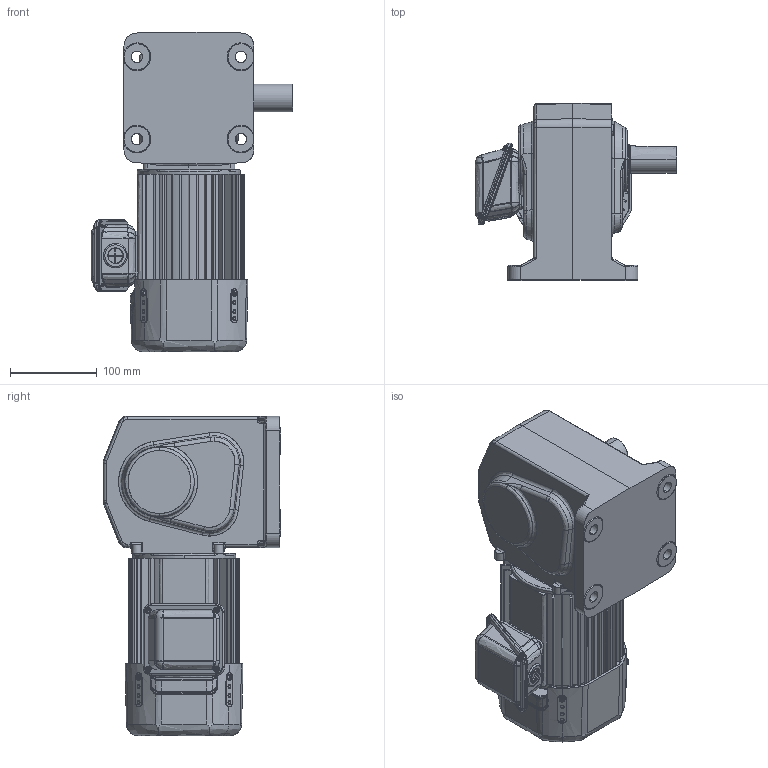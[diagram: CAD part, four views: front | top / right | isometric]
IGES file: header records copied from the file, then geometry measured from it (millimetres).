
Start section: SolidWorks IGES file using analytic representation for surfaces
Global section: file name: \\100.100.100.8\1_共有作業フォルダ\1-5_３Ｄデータ\solidworks\personal-folder\H.Nagayama\HL外形\HL(3D)\igs\TMHLB-04-(80~240)B.IGS; native system: SolidWorks 2018; preprocessor: SolidWorks 2018; author: sigma-giken; date: 200324.151902; units: millimetre
Bounding box: 233 x 205 x 369 mm (x, y, z)
Surface area: 547146.7 mm2 (no closed solid volume)
Topology: 0 solids, 0 shells, 1922 faces, 24830 edges, 24751 vertices
Faces by surface type: bspline 967, revolution 955
